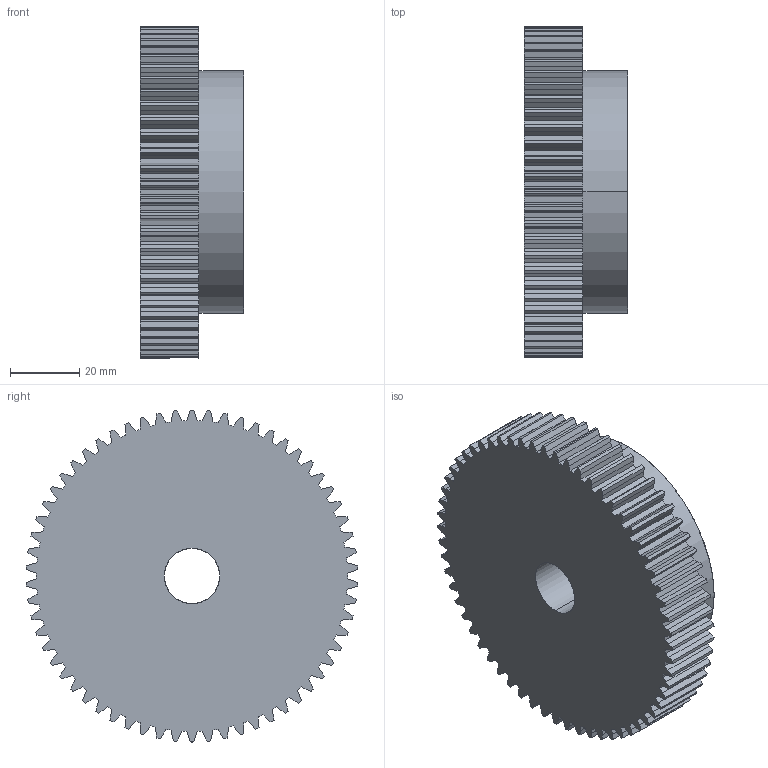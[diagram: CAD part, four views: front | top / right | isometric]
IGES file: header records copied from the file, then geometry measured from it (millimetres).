
Start section: SolidWorks IGES file using analytic representation for surfaces
Global section: file name: C:\Users\Honza\Desktop\Matis (Hotove)\Èelní ozubená kola\PM\MODUL 1,5\PM 27062.IGS; native system: SolidWorks 2010; preprocessor: SolidWorks 2010; author: Honza; date: 130924.140753; units: millimetre
Bounding box: 30 x 95.92 x 96 mm (x, y, z)
Surface area: 26840.1 mm2 (no closed solid volume)
Topology: 0 solids, 0 shells, 380 faces, 2447 edges, 2447 vertices
Faces by surface type: bspline 251, revolution 129
